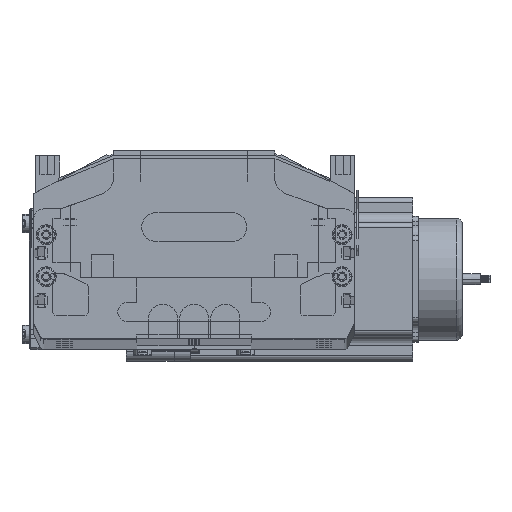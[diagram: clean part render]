
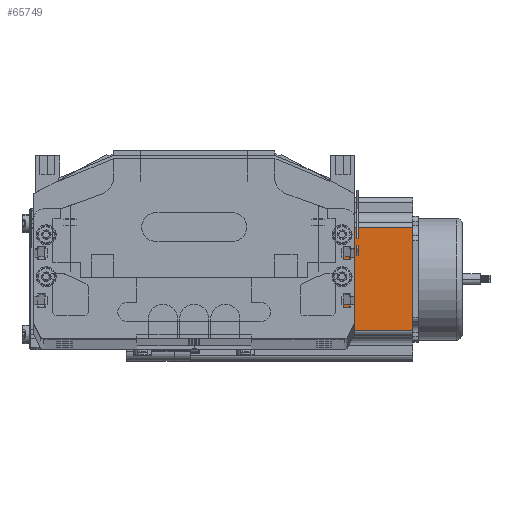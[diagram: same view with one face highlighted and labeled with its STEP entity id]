
A CAD part, top view. The second image highlights one B-rep face of the part: STEP entity #65749.
In plain terms, the highlighted planar face has unit normal (0, 0, 1) as drawn and (0, -1, 0) by its records, which use the part's own axes.
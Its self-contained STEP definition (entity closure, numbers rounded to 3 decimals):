
#65672 = EDGE_CURVE ( 'NONE', #65747, #65739, #79780, .T. ) ;
#65676 = VERTEX_POINT ( 'NONE', #79766 ) ;
#65678 = ORIENTED_EDGE ( 'NONE', *, *, #65737, .T. ) ;
#65679 = EDGE_CURVE ( 'NONE', #65743, #65676, #79765, .T. ) ;
#65681 = EDGE_CURVE ( 'NONE', #65743, #65747, #79763, .T. ) ;
#65683 = ORIENTED_EDGE ( 'NONE', *, *, #65681, .T. ) ;
#65737 = EDGE_CURVE ( 'NONE', #65739, #65676, #79884, .T. ) ;
#65738 = ORIENTED_EDGE ( 'NONE', *, *, #65672, .T. ) ;
#65739 = VERTEX_POINT ( 'NONE', #79892 ) ;
#65741 = EDGE_LOOP ( 'NONE', ( #65738, #65678, #65742, #65683 ) ) ;
#65742 = ORIENTED_EDGE ( 'NONE', *, *, #65679, .F. ) ;
#65743 = VERTEX_POINT ( 'NONE', #79840 ) ;
#65747 = VERTEX_POINT ( 'NONE', #79926 ) ;
#65749 = ADVANCED_FACE ( 'NONE', ( #79933 ), #79932, .F. ) ;
#79755 = DIRECTION ( 'NONE',  ( 0., 0., -1. ) ) ;
#79756 = VECTOR ( 'NONE', #79755, 1000. ) ;
#79759 = DIRECTION ( 'NONE',  ( 1., 0., 0. ) ) ;
#79760 = VECTOR ( 'NONE', #79759, 1000. ) ;
#79762 = CARTESIAN_POINT ( 'NONE',  ( 16.16, 0., 116.5 ) ) ;
#79763 = LINE ( 'NONE', #79762, #79756 ) ;
#79764 = CARTESIAN_POINT ( 'NONE',  ( 0., 0., 116.5 ) ) ;
#79765 = LINE ( 'NONE', #79764, #79760 ) ;
#79766 = CARTESIAN_POINT ( 'NONE',  ( 69.74, 0., 116.5 ) ) ;
#79768 = DIRECTION ( 'NONE',  ( 1., 0., 0. ) ) ;
#79769 = VECTOR ( 'NONE', #79768, 1000. ) ;
#79779 = CARTESIAN_POINT ( 'NONE',  ( 0., 0., 0. ) ) ;
#79780 = LINE ( 'NONE', #79779, #79769 ) ;
#79840 = CARTESIAN_POINT ( 'NONE',  ( 16.16, 0., 116.5 ) ) ;
#79883 = CARTESIAN_POINT ( 'NONE',  ( 69.74, 0., 116.5 ) ) ;
#79884 = LINE ( 'NONE', #79883, #79897 ) ;
#79892 = CARTESIAN_POINT ( 'NONE',  ( 69.74, 0., 0. ) ) ;
#79897 = VECTOR ( 'NONE', #79941, 1000. ) ;
#79922 = AXIS2_PLACEMENT_3D ( 'NONE', #79927, #79939, #79938 ) ;
#79926 = CARTESIAN_POINT ( 'NONE',  ( 16.16, 0., 0. ) ) ;
#79927 = CARTESIAN_POINT ( 'NONE',  ( 0., 0., 116.5 ) ) ;
#79932 = PLANE ( 'NONE',  #79922 ) ;
#79933 = FACE_OUTER_BOUND ( 'NONE', #65741, .T. ) ;
#79938 = DIRECTION ( 'NONE',  ( 0., 0., 1. ) ) ;
#79939 = DIRECTION ( 'NONE',  ( 0., 1., 0. ) ) ;
#79941 = DIRECTION ( 'NONE',  ( 0., 0., 1. ) ) ;
